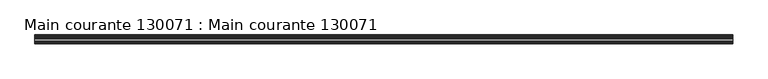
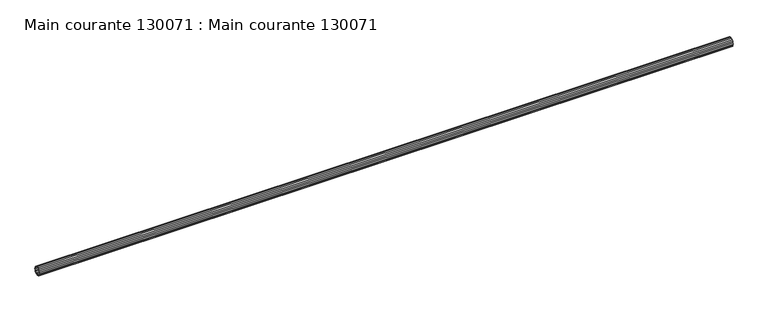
"""IFC4 building model written with IfcOpenShell, lengths in millimetres: beam geometry, Main courante 130071 : Main courante 130071."""

from ifc_helpers import new_model, si_unit, frame, origin, place, context, project, spatial, polyline, outline, extrude, source, transform, mapped, element, save


def main_courante_130071_main_courante_130071_77d759bd(model_context):
    return source(origin(), model_context, "Body", "SweptSolid", [
        extrude(outline(polyline([(-35742.35, 9264.15), (-35734.8872396, 9262.9680149), (-35728.1549862, 9259.5377604), (-35722.8122396, 9254.1950138), (-35719.3819851, 9247.4627604), (-35718.2, 9240.0), (-35719.3819851, 9232.5372396), (-35722.8122396, 9225.8049862), (-35728.1549862, 9220.4622396), (-35734.8872396, 9217.0319851), (-35742.35, 9215.85), (-35749.8127604, 9217.0319851), (-35756.5450138, 9220.4622396), (-35761.8877604, 9225.8049862), (-35765.3180149, 9232.5372396), (-35766.5, 9240.0), (-35765.3180149, 9247.4627604), (-35761.8877604, 9254.1950138), (-35756.5450138, 9259.5377604), (-35749.8127604, 9262.9680149), (-35742.35, 9264.15)]), holes=[polyline([(-35721.7596264, 9246.6902179), (-35724.8347821, 9252.7255507), (-35729.6244493, 9257.5152179), (-35735.6597821, 9260.5903736), (-35742.35, 9261.65), (-35749.0402179, 9260.5903736), (-35755.0755507, 9257.5152179), (-35759.8652179, 9252.7255507), (-35762.9403736, 9246.6902179), (-35764.0, 9240.0), (-35762.9403736, 9233.3097821), (-35759.8652179, 9227.2744493), (-35755.0755507, 9222.4847821), (-35749.0402179, 9219.4096264), (-35742.35, 9218.35), (-35735.6597821, 9219.4096264), (-35729.6244493, 9222.4847821), (-35724.8347821, 9227.2744493), (-35721.7596264, 9233.3097821), (-35720.7, 9240.0), (-35721.7596264, 9246.6902179)])]), frame((7634.9999999, 0.0, 0.0), z_axis=(1.0, 0.0, 0.0), x_axis=(0.0, 1.0, 0.0)), (0.0, 0.0, 1.0), 3832.2815708),
    ])


if __name__ == "__main__":
    model = new_model("IFC4")
    model_context = context("Model", 3, world=origin())
    ifc_project = project(units=[si_unit("LENGTHUNIT", "METRE", prefix="MILLI")], contexts=[model_context])
    site = spatial("IfcSite", under=ifc_project)
    building = spatial("IfcBuilding", under=site)
    placement = place(None, origin())
    main_courante_130071_main_courante_130071_shape = main_courante_130071_main_courante_130071_77d759bd(model_context)
    element("IfcBeam", 1, ObjectType="Main courante 130071 : Main courante 130071", at=placement, inside=building, context=model_context, shape_type="MappedRepresentation", body=[
        mapped(main_courante_130071_main_courante_130071_shape, transform((0.0, 0.0, 0.0), x_axis=(1.0, 0.0, 0.0), y_axis=(0.0, 1.0, 0.0), z_axis=(0.0, 0.0, 1.0))),
    ])
    save(model, "model.ifc")
